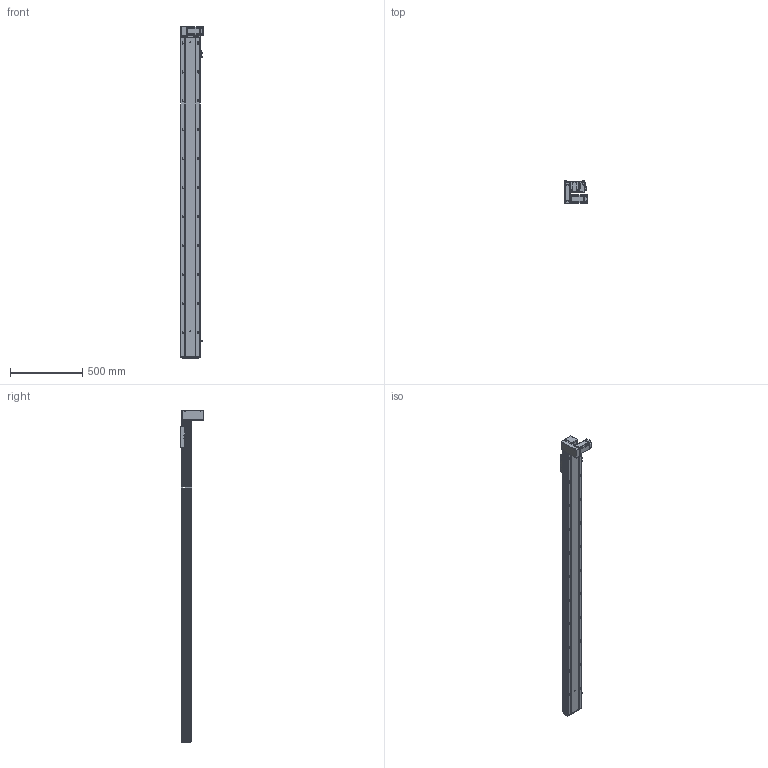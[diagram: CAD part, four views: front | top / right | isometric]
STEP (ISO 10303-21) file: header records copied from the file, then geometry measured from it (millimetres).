
FILE_DESCRIPTION (( 'STEP AP203' ), '1' );
FILE_NAME ('RY140-T-300-DL.SLDASM_1950.step', '2021-03-01T06:07:48', ( '盈信电脑' ), ( '东莞市道滘镇水果街19号' ), 'SwSTEP 2.0', 'SolidWorks 2012', '' );
FILE_SCHEMA (( 'CONFIG_CONTROL_DESIGN' ));
Length unit declared in the file: millimetre
Products named in the file (18): RY140-T-300-DL.SLDASM_1950; RY120-T蹟翐M4; RY140-T萇儂欶; 滅袉蝶18-10; RY140-T翋肮謫裔啣; 侂狟400W侜督萇儂; 15; RY140-T萇儂假蚾啣; RY120-T主同步轮轴承压盖; RY140-T翋肮祭謫盓傅釱; RY120-T肮祭湍揤踡輸1; RY120-T肮祭湍揤踡輸2; RY140綴裔啣; RY140-T-300-DL倰第奻裔啣_1950; RY120外置感应片(140共用）; 覜茼ん672; RY140肮祭謫臏賑輸; RY140-T-300-DL倰第菁釱_1950
Assembly tree (23 placements, depth 3):
  RY140-T-300-DL.SLDASM_1950
    RY140-T-300-DL倰第菁釱_1950
    RY140肮祭謫臏賑輸
    RY140-T-300-DL倰第奻裔啣_1950
    RY140綴裔啣
    覜茼ん672  x3
    RY120外置感应片(140共用）
    RY120-T肮祭湍揤踡輸2
    RY120-T肮祭湍揤踡輸1
    RY140-T翋肮祭謫盓傅釱
    RY140-T萇儂假蚾啣
    侂狟400W侜督萇儂
      15
    RY120-T主同步轮轴承压盖
    RY120-T蹟翐M4  x4
    RY140-T萇儂欶
    滅袉蝶18-10  x2
    RY140-T翋肮謫裔啣
Bounding box: 157 x 158.5 x 2296 mm (x, y, z)
Volume: 6269216.1 mm3; surface area: 2452254.2 mm2
Topology: 22 solids, 22 shells, 2874 faces, 7890 edges, 5022 vertices
Faces by surface type: plane 1385, cylinder 1103, cone 286, bspline 100
Entity records: 90900 total; most frequent: CARTESIAN_POINT 22041, ORIENTED_EDGE 14140, DIRECTION 13536, EDGE_CURVE 7070, VERTEX_POINT 4621, AXIS2_PLACEMENT_3D 4557, LINE 4422, VECTOR 4422
